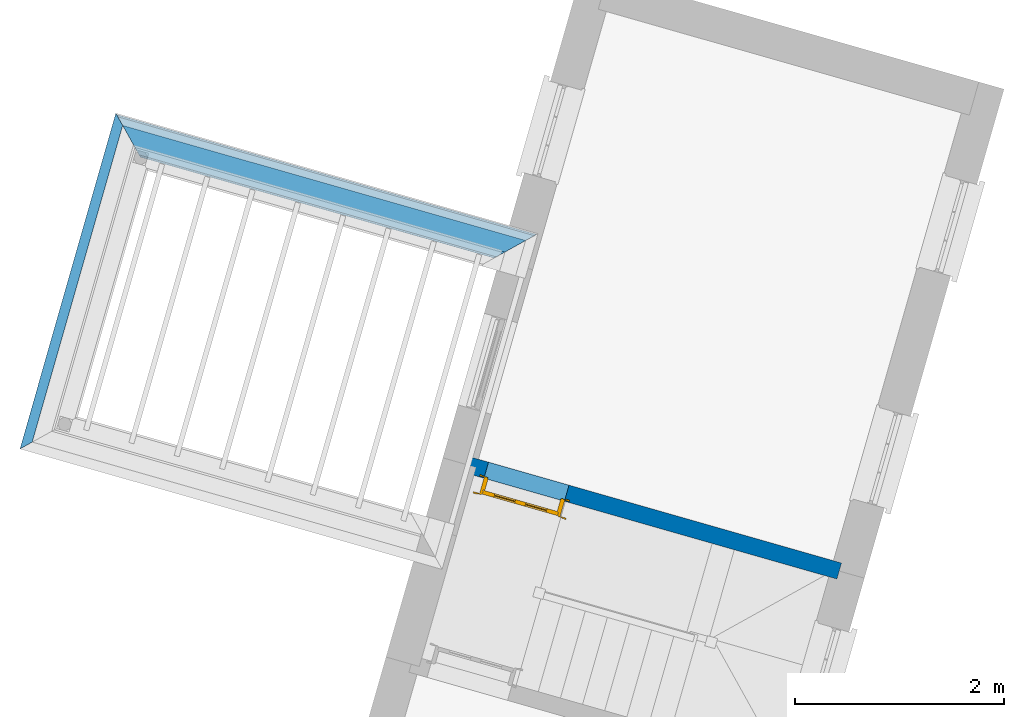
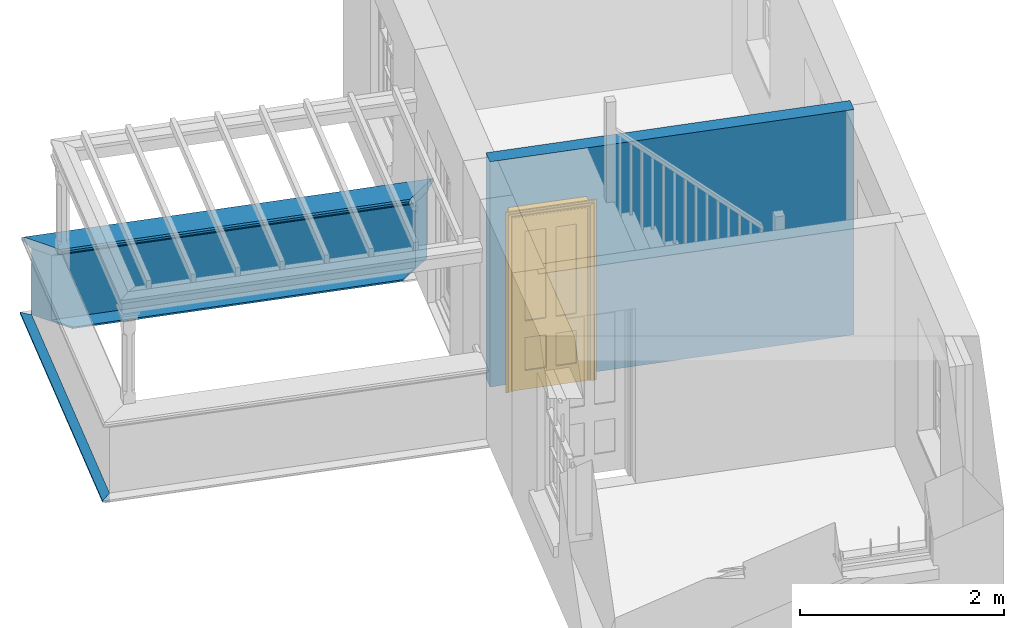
# One storey, part 3 of 6: 4 walls, 1 door, 1 opening.
"""IFC4 building model written with IfcOpenShell, lengths in metres."""

from ifc_helpers import new_model, si_unit, frame, origin, origin_with_axes, place, context, subcontext, project, spatial, polyline, outline, extrude, clip, halfspace, faceted_brep, source, transform, mapped, material, layer, layer_set, layer_usage, material_profile, profile_set, profile_usage, type_object, type_shapes, element, fill, save


model = new_model("IFC4")

# Units and contexts
model_context = context("Model", 3, world=origin_with_axes())
body_context = subcontext(model_context, "Body", "Model", "MODEL_VIEW")
ifc_project = project(units=[si_unit("PLANEANGLEUNIT", "RADIAN"), si_unit("MASSUNIT", "GRAM", prefix="KILO"), si_unit("FORCEUNIT", "NEWTON", prefix="KILO"), si_unit("LENGTHUNIT", "METRE"), si_unit("AREAUNIT", "SQUARE_METRE"), si_unit("VOLUMEUNIT", "CUBIC_METRE")], contexts=[model_context, model_context])

# Sites, building, storey
site_1_placement = place(None, origin_with_axes())
site_1 = spatial("IfcSite", under=ifc_project, at=site_1_placement, Name="Tamar")
site_2_placement = place(site_1_placement, origin_with_axes())
site_2 = spatial("IfcSite", under=site_1, at=site_2_placement, Name="Site plot-20", CompositionType="ELEMENT")
building_placement = place(None, origin_with_axes())
building = spatial("IfcBuilding", under=site_2, at=building_placement, Name="Building plot-20", CompositionType="ELEMENT")
storey_placement = place(None, frame((0.0, 0.0, 29.15), z_axis=(0.0, 0.0, 1.0), x_axis=(1.0, 0.0, 0.0)))
storey = spatial("IfcBuildingStorey", under=building, at=storey_placement, Name="plot-20 1", CompositionType="ELEMENT", Elevation=29.15)

# Wall, opening, door
ifc_material = material(Name="Masonry")
ifc_layer = layer(ifc_material, 0.16, ventilated=False)
ifc_layer_set = layer_set([ifc_layer], Name="interior_0.08_0.08")
ifc_layer_usage = layer_usage(ifc_layer_set, "AXIS2", "POSITIVE", -0.08)
wall_type_1 = type_object("IfcWallType", Name="interior_0.08_0.08", PredefinedType="SOLIDWALL", material=ifc_layer_set)
wall_1_placement = place(storey_placement, frame((281.132347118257, 288.440429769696, 0.0), z_axis=(0.0, 0.0, 1.0), x_axis=(-0.961567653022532, 0.274568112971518, 0.0)))
wall_1 = element("IfcWall", 1, at=wall_1_placement, inside=storey, type_object=wall_type_1, material=ifc_layer_usage, Name="interior", context=body_context, shape_type="SweptSolid", body=[
    extrude(outline(polyline([(1.74487227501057e-14, 0.079999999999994), (-1.74566891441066e-14, -0.079999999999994), (3.68676876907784, -0.0799999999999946), (3.68676876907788, 0.0799999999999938), (1.74487227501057e-14, 0.079999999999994)])), origin_with_axes(), (0.0, 0.0, 1.0), 2.7),
])
opening_placement = place(wall_1_placement, frame((2.70676876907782, 0.0, 0.0199999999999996)))
opening = element("IfcOpeningElement", 2, at=opening_placement, cuts=wall_1, Name="My Opening", ObjectType="Opening", context=body_context, shape_type="SweptSolid", body=[
    extrude(outline(polyline([(0.0, -0.0999999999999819), (0.800000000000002, -0.099999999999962), (0.800000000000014, 1.09999999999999), (1.15463194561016e-14, 1.09999999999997), (0.0, -0.0999999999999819)])), origin_with_axes(), (0.0, 0.0, 1.0), 2.1),
])
door_type = type_object("IfcDoorType", Name="door_inside", OperationType="SINGLE_SWING_LEFT", PredefinedType="NOTDEFINED")
shared_shape = source(origin(), body_context, "Body", "Brep", [
    faceted_brep([(0.773, 0.33, 1.895), (0.66, 0.33, 1.895), (0.66, 0.33, 2.073), (0.773, 0.33, 2.073), (0.773, 0.33, 0.82), (0.66, 0.33, 0.82), (0.45, 0.33, 1.895), (0.45, 0.33, 2.073), (0.773, 0.33, 0.62), (0.66, 0.33, 0.62), (0.66, 0.315, 0.82), (0.66, 0.315, 1.895), (0.45, 0.315, 1.895), (0.35, 0.33, 1.895), (0.35, 0.33, 2.073), (0.773, 0.33, 0.225), (0.66, 0.33, 0.225), (0.45, 0.33, 0.62), (0.45, 0.33, 0.82), (0.45, 0.315, 0.82), (0.35, 0.33, 0.82), (0.14, 0.33, 2.073), (0.14, 0.33, 1.895), (0.773, 0.33, 0.0), (0.66, 0.33, 0.0), (0.66, 0.315, 0.225), (0.66, 0.315, 0.62), (0.45, 0.315, 0.62), (0.35, 0.33, 0.62), (0.35, 0.315, 0.82), (0.35, 0.315, 1.895), (0.14, 0.315, 1.895), (0.027, 0.33, 2.073), (0.027, 0.33, 1.895), (0.773, 0.292, 0.0), (0.66, 0.292, 0.0), (0.45, 0.33, 0.0), (0.45, 0.33, 0.225), (0.45, 0.315, 0.225), (0.35, 0.33, 0.225), (0.14, 0.33, 0.82), (0.14, 0.33, 0.62), (0.14, 0.315, 0.82), (0.027, 0.33, 0.82), (0.773, 0.292, 0.225), (0.66, 0.292, 0.225), (0.45, 0.292, 0.0), (0.35, 0.33, 0.0), (0.35, 0.315, 0.225), (0.35, 0.315, 0.62), (0.14, 0.315, 0.62), (0.027, 0.33, 0.62), (0.773, 0.292, 0.62), (0.66, 0.292, 0.62), (0.45, 0.292, 0.225), (0.35, 0.292, 0.0), (0.14, 0.33, 0.225), (0.14, 0.33, 0.0), (0.14, 0.315, 0.225), (0.027, 0.33, 0.225), (0.773, 0.292, 0.82), (0.66, 0.292, 0.82), (0.66, 0.307, 0.62), (0.66, 0.307, 0.225), (0.45, 0.307, 0.225), (0.35, 0.292, 0.225), (0.14, 0.292, 0.0), (0.027, 0.33, 0.0), (0.773, 0.292, 1.895), (0.66, 0.292, 1.895), (0.45, 0.292, 0.62), (0.45, 0.292, 0.82), (0.45, 0.307, 0.62), (0.35, 0.292, 0.62), (0.14, 0.292, 0.225), (0.027, 0.292, 0.0), (0.773, 0.292, 2.073), (0.66, 0.292, 2.073), (0.66, 0.307, 1.895), (0.66, 0.307, 0.82), (0.45, 0.307, 0.82), (0.35, 0.292, 0.82), (0.35, 0.307, 0.62), (0.35, 0.307, 0.225), (0.14, 0.307, 0.225), (0.027, 0.292, 0.225), (0.45, 0.292, 1.895), (0.45, 0.292, 2.073), (0.45, 0.307, 1.895), (0.35, 0.292, 1.895), (0.14, 0.292, 0.82), (0.14, 0.292, 0.62), (0.14, 0.307, 0.62), (0.027, 0.292, 0.62), (0.35, 0.292, 2.073), (0.35, 0.307, 1.895), (0.35, 0.307, 0.82), (0.14, 0.307, 0.82), (0.027, 0.292, 0.82), (0.14, 0.292, 2.073), (0.14, 0.292, 1.895), (0.14, 0.307, 1.895), (0.027, 0.292, 1.895), (0.027, 0.292, 2.073), (0.02, 0.335, 0.0), (0.005, 0.34, 0.0), (0.005, 0.34, 2.095), (0.02, 0.335, 2.08), (0.02, 0.33, 0.0), (0.0, 0.335, 0.0), (0.0, 0.335, 2.1), (0.795, 0.34, 2.095), (0.78, 0.335, 2.08), (0.02, 0.33, 2.08), (0.0, 0.33, 0.0), (-0.032, 0.345, 0.0), (-0.032, 0.345, 2.132), (0.8, 0.335, 2.1), (0.795, 0.34, 0.0), (0.78, 0.335, 0.0), (0.78, 0.33, 2.08), (0.04, 0.29, 0.0), (0.025, 0.29, 0.0), (0.025, 0.29, 2.075), (0.04, 0.29, 2.06), (-0.04, 0.34, 0.0), (-0.04, 0.34, 2.14), (0.832, 0.345, 2.132), (0.8, 0.335, 0.0), (0.78, 0.33, 0.0), (0.8, 0.33, 0.0), (0.86, 0.33, 0.0), (0.86, 0.33, 2.16), (0.8, 0.33, 2.1), (-0.06, 0.33, 2.16), (0.0, 0.33, 2.1), (-0.06, 0.33, 0.0), (-0.04, 0.345, 0.0), (-0.04, 0.345, 2.14), (0.84, 0.34, 2.14), (0.832, 0.345, 0.0), (0.84, 0.34, 0.0), (0.86, 0.345, 0.0), (0.86, 0.345, 2.16), (-0.06, 0.345, 2.16), (-0.06, 0.345, 0.0), (0.84, 0.345, 0.0), (0.84, 0.345, 2.14), (-0.025, 0.155, 0.0), (-0.025, 0.16, 0.0), (-0.025, 0.16, 2.125), (-0.025, 0.155, 2.125), (-0.017, 0.155, 0.0), (-0.017, 0.155, 2.117), (0.825, 0.16, 2.125), (0.825, 0.155, 2.125), (0.825, 0.155, 0.0), (0.845, 0.155, 0.0), (-0.045, 0.155, 2.145), (-0.045, 0.155, 0.0), (0.845, 0.155, 2.145), (0.015, 0.165, 0.0), (0.015, 0.165, 2.085), (0.817, 0.155, 2.117), (0.825, 0.16, 0.0), (0.845, 0.17, 0.0), (0.845, 0.17, 2.145), (-0.045, 0.17, 2.145), (-0.045, 0.17, 0.0), (0.02, 0.16, 0.0), (0.02, 0.16, 2.08), (0.785, 0.165, 2.085), (0.817, 0.155, 0.0), (0.8, 0.17, 0.0), (0.8, 0.17, 2.1), (0.0, 0.17, 2.1), (0.0, 0.17, 0.0), (0.035, 0.165, 0.0), (0.035, 0.165, 2.065), (0.78, 0.16, 2.08), (0.785, 0.165, 0.0), (0.775, 0.29, 2.075), (0.76, 0.29, 2.06), (0.035, 0.17, 2.065), (0.035, 0.17, 0.0), (0.765, 0.165, 2.065), (0.78, 0.16, 0.0), (0.765, 0.17, 0.0), (0.765, 0.17, 2.065), (0.765, 0.165, 0.0), (0.04, 0.17, 2.06), (0.04, 0.17, 0.0), (0.76, 0.17, 2.06), (0.76, 0.17, 0.0), (0.76, 0.29, 0.0), (0.775, 0.29, 0.0), (0.025, 0.33, 0.0), (0.025, 0.33, 2.075), (0.775, 0.33, 0.0), (0.775, 0.33, 2.075)], [[[0, 1, 2, 3]], [[1, 0, 4, 5]], [[1, 6, 7, 2]], [[8, 9, 5, 4]], [[1, 5, 10, 11]], [[6, 1, 11, 12]], [[6, 13, 14, 7]], [[15, 16, 9, 8]], [[9, 17, 18, 5]], [[5, 18, 19, 10]], [[10, 19, 12, 11]], [[18, 6, 12, 19]], [[18, 20, 13, 6]], [[21, 14, 13, 22]], [[23, 24, 16, 15]], [[9, 16, 25, 26]], [[17, 9, 26, 27]], [[17, 28, 20, 18]], [[13, 20, 29, 30]], [[22, 13, 30, 31]], [[32, 21, 22, 33]], [[34, 35, 24, 23]], [[24, 36, 37, 16]], [[16, 37, 38, 25]], [[25, 38, 27, 26]], [[37, 17, 27, 38]], [[37, 39, 28, 17]], [[40, 20, 28, 41]], [[20, 40, 42, 29]], [[31, 30, 29, 42]], [[40, 22, 31, 42]], [[33, 22, 40, 43]], [[35, 34, 44, 45]], [[35, 46, 36, 24]], [[36, 47, 39, 37]], [[28, 39, 48, 49]], [[41, 28, 49, 50]], [[43, 40, 41, 51]], [[45, 44, 52, 53]], [[46, 35, 45, 54]], [[46, 55, 47, 36]], [[56, 39, 47, 57]], [[39, 56, 58, 48]], [[50, 49, 48, 58]], [[56, 41, 50, 58]], [[51, 41, 56, 59]], [[53, 52, 60, 61]], [[45, 53, 62, 63]], [[54, 45, 63, 64]], [[55, 46, 54, 65]], [[55, 66, 57, 47]], [[59, 56, 57, 67]], [[61, 60, 68, 69]], [[70, 53, 61, 71]], [[53, 70, 72, 62]], [[72, 64, 63, 62]], [[70, 54, 64, 72]], [[65, 54, 70, 73]], [[65, 74, 66, 55]], [[67, 57, 66, 75]], [[69, 68, 76, 77]], [[61, 69, 78, 79]], [[71, 61, 79, 80]], [[73, 70, 71, 81]], [[65, 73, 82, 83]], [[74, 65, 83, 84]], [[74, 85, 75, 66]], [[86, 69, 77, 87]], [[69, 86, 88, 78]], [[88, 80, 79, 78]], [[86, 71, 80, 88]], [[81, 71, 86, 89]], [[73, 81, 90, 91]], [[73, 91, 92, 82]], [[83, 82, 92, 84]], [[91, 74, 84, 92]], [[91, 93, 85, 74]], [[89, 86, 87, 94]], [[81, 89, 95, 96]], [[90, 81, 96, 97]], [[90, 98, 93, 91]], [[94, 99, 100, 89]], [[89, 100, 101, 95]], [[101, 97, 96, 95]], [[100, 90, 97, 101]], [[100, 102, 98, 90]], [[99, 103, 102, 100]], [[32, 103, 99, 21]], [[102, 103, 32, 33]], [[98, 102, 33, 43]], [[21, 99, 94, 14]], [[94, 87, 7, 14]], [[7, 87, 77, 2]], [[76, 3, 2, 77]], [[43, 51, 93, 98]], [[51, 59, 85, 93]], [[67, 75, 85, 59]], [[34, 23, 15, 44]], [[44, 15, 8, 52]], [[52, 8, 4, 60]], [[0, 68, 60, 4]], [[0, 3, 76, 68]], [[104, 105, 106, 107]], [[104, 108, 109, 105]], [[105, 109, 110, 106]], [[107, 106, 111, 112]], [[107, 113, 108, 104]], [[114, 109, 108]], [[109, 115, 116, 110]], [[106, 110, 117, 111]], [[112, 111, 118, 119]], [[113, 107, 112, 120]], [[121, 122, 123, 124]], [[115, 109, 114, 125]], [[115, 125, 126, 116]], [[110, 116, 127, 117]], [[111, 117, 128, 118]], [[118, 128, 129, 119]], [[120, 112, 119, 129]], [[130, 129, 128]], [[130, 131, 132, 133]], [[133, 132, 134, 135]], [[135, 134, 136, 114]], [[136, 125, 114]], [[125, 137, 138, 126]], [[116, 126, 139, 127]], [[117, 127, 140, 128]], [[141, 130, 128, 140]], [[131, 130, 141]], [[131, 142, 143, 132]], [[132, 143, 144, 134]], [[134, 144, 145, 136]], [[137, 125, 136, 145]], [[143, 142, 146]], [[143, 146, 147]], [[137, 145, 144]], [[143, 147, 138]], [[138, 137, 144]], [[143, 138, 144]], [[126, 138, 147, 139]], [[127, 139, 141, 140]], [[142, 131, 141, 146]], [[139, 147, 146, 141]], [[148, 149, 150, 151]], [[149, 152, 153, 150]], [[151, 150, 154, 155]], [[155, 156, 157]], [[158, 159, 148]], [[158, 148, 151]], [[155, 157, 160]], [[158, 151, 155]], [[155, 160, 158]], [[152, 161, 162, 153]], [[150, 153, 163, 154]], [[155, 154, 164, 156]], [[156, 164, 165, 157]], [[157, 165, 166, 160]], [[160, 166, 167, 158]], [[158, 167, 168, 159]], [[161, 169, 170, 162]], [[153, 162, 171, 163]], [[154, 163, 172, 164]], [[165, 164, 173]], [[165, 173, 174, 166]], [[166, 174, 175, 167]], [[167, 175, 176, 168]], [[169, 177, 178, 170]], [[162, 170, 179, 171]], [[163, 171, 180, 172]], [[172, 180, 173, 164]], [[124, 123, 181, 182]], [[183, 178, 177, 184]], [[170, 178, 185, 179]], [[171, 179, 186, 180]], [[187, 173, 180]], [[185, 188, 187, 189]], [[188, 185, 178, 183]], [[179, 185, 189, 186]], [[189, 187, 180, 186]], [[190, 183, 184, 191]], [[192, 188, 183, 190]], [[191, 184, 122, 121]], [[124, 190, 191, 121]], [[193, 187, 188, 192]], [[182, 192, 190, 124]], [[184, 176, 122]], [[194, 195, 187, 193]], [[192, 182, 194, 193]], [[161, 176, 184]], [[114, 108, 122, 176]], [[173, 187, 195]], [[152, 149, 176, 161]], [[169, 161, 184, 177]], [[196, 122, 108]], [[176, 175, 135, 114]], [[173, 195, 129, 130]], [[176, 149, 168]], [[123, 122, 196, 197]], [[196, 108, 113, 197]], [[175, 174, 133, 135]], [[198, 129, 195]], [[133, 174, 173, 130]], [[159, 168, 149, 148]], [[181, 123, 197, 199]], [[197, 113, 120, 199]], [[199, 120, 129, 198]], [[195, 181, 199, 198]], [[195, 194, 182, 181]]]),
])
type_shapes(door_type, [shared_shape])
door_placement = place(storey_placement, frame((278.557062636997, 289.279778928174, 0.0199999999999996), z_axis=(0.0, 0.0, 1.0), x_axis=(-0.769254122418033, 0.219654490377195, 0.0)))
door = element("IfcDoor", 3, at=door_placement, inside=storey, type_object=door_type, Name="bedroom inside door", OverallHeight=2.1, OverallWidth=0.8, context=body_context, shape_type="MappedRepresentation", body=[
    mapped(shared_shape, transform((0.0, 0.0, 0.0), scale=1.0)),
])
fill(opening, door)

# Walls
ifc_material_profile_1 = material_profile(None, outline(polyline([(0.25, 0.0), (0.25, 0.795), (0.09, 0.795), (0.09, 0.02), (-0.08, 0.02), (-0.08, 0.0), (0.25, 0.0)])))
ifc_profile_set_1 = profile_set([ifc_material_profile_1])
ifc_profile_usage_1 = profile_usage(ifc_profile_set_1)
wall_type_2 = type_object("IfcWallType", Name="parapet_0", PredefinedType="PARAPET", material=ifc_profile_set_1)
wall_2_placement = place(storey_placement, frame((273.498102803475, 292.662178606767, 0.0), z_axis=(0.961567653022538, -0.274568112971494, 0.0), x_axis=(0.274568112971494, 0.961567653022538, 0.0)))
element("IfcWall", 4, at=wall_2_placement, inside=storey, type_object=wall_type_2, material=ifc_profile_usage_1, Name="parapet_0", context=body_context, shape_type="Clipping", body=[
    clip(clip(extrude(outline(polyline([(0.25, 0.0), (0.25, 0.795), (0.09, 0.795), (0.09, 0.02), (-0.08, 0.02), (-0.08, 0.0), (0.25, 0.0)])), origin_with_axes(), (0.0, 0.0, 1.0), 5.50323123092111), halfspace(frame((0.0, 0.0, 4.50323123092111), z_axis=(0.707106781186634, 0.0, -0.707106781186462), x_axis=(0.0, 1.0, 0.0)), True)), halfspace(frame((0.0, 0.0, 1.0), z_axis=(-0.707106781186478, 0.0, -0.707106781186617), x_axis=(0.0, 1.0, 0.0)), False)),
])
ifc_material_profile_2 = material_profile(None, outline(polyline([(0.265, 0.795), (0.268, 0.807), (0.274, 0.816), (0.283, 0.822), (0.295, 0.825), (0.295, 0.84), (0.305, 0.84), (0.317, 0.842), (0.326, 0.849), (0.333, 0.858), (0.335, 0.87), (0.333, 0.882), (0.326, 0.891), (0.317, 0.898), (0.305, 0.9), (0.035, 0.9), (0.023, 0.898), (0.014, 0.891), (0.007, 0.882), (0.005, 0.87), (0.007, 0.858), (0.014, 0.849), (0.023, 0.842), (0.035, 0.84), (0.045, 0.84), (0.045, 0.825), (0.057, 0.822), (0.066, 0.816), (0.072, 0.807), (0.075, 0.795), (0.265, 0.795)])))
ifc_profile_set_2 = profile_set([ifc_material_profile_2])
ifc_profile_usage_2 = profile_usage(ifc_profile_set_2)
wall_type_3 = type_object("IfcWallType", Name="parapet_1", PredefinedType="PARAPET", material=ifc_profile_set_2)
wall_3_placement = place(storey_placement, frame((273.498102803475, 292.662178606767, 0.0), z_axis=(0.961567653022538, -0.274568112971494, 0.0), x_axis=(0.274568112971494, 0.961567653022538, 0.0)))
element("IfcWall", 5, at=wall_3_placement, inside=storey, type_object=wall_type_3, material=ifc_profile_usage_2, Name="parapet_1", context=body_context, shape_type="Clipping", body=[
    clip(clip(extrude(outline(polyline([(0.265, 0.795), (0.268, 0.807), (0.274, 0.816), (0.283, 0.822), (0.295, 0.825), (0.295, 0.84), (0.305, 0.84), (0.317, 0.842), (0.326, 0.849), (0.333, 0.858), (0.335, 0.87), (0.333, 0.882), (0.326, 0.891), (0.317, 0.898), (0.305, 0.9), (0.035, 0.9), (0.023, 0.898), (0.014, 0.891), (0.007, 0.882), (0.005, 0.87), (0.007, 0.858), (0.014, 0.849), (0.023, 0.842), (0.035, 0.84), (0.045, 0.84), (0.045, 0.825), (0.057, 0.822), (0.066, 0.816), (0.072, 0.807), (0.075, 0.795), (0.265, 0.795)])), origin_with_axes(), (0.0, 0.0, 1.0), 5.50323123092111), halfspace(frame((0.0, 0.0, 4.50323123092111), z_axis=(0.707106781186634, 0.0, -0.707106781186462), x_axis=(0.0, 1.0, 0.0)), True)), halfspace(frame((0.0, 0.0, 1.0), z_axis=(-0.707106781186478, 0.0, -0.707106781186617), x_axis=(0.0, 1.0, 0.0)), False)),
])
ifc_material_profile_3 = material_profile(None, outline(polyline([(0.25, -0.1), (0.265, -0.1), (0.265, -0.085), (0.278, -0.084), (0.289, -0.081), (0.301, -0.074), (0.309, -0.065), (0.315, -0.055), (0.324, -0.044), (0.334, -0.038), (0.345, -0.035), (0.345, -0.015), (0.25, 0.0), (0.25, -0.1)])))
ifc_profile_set_3 = profile_set([ifc_material_profile_3])
ifc_profile_usage_3 = profile_usage(ifc_profile_set_3)
wall_type_4 = type_object("IfcWallType", Name="parapet_2", PredefinedType="PARAPET", material=ifc_profile_set_3)
wall_4_placement = place(storey_placement, frame((273.458765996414, 288.88233327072, 0.0), z_axis=(0.274568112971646, 0.961567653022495, 0.0), x_axis=(-0.961567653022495, 0.274568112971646, 0.0)))
element("IfcWall", 6, at=wall_4_placement, inside=storey, type_object=wall_type_4, material=ifc_profile_usage_3, Name="parapet_2", context=body_context, shape_type="Clipping", body=[
    clip(clip(extrude(outline(polyline([(0.25, -0.1), (0.265, -0.1), (0.265, -0.085), (0.278, -0.084), (0.289, -0.081), (0.301, -0.074), (0.309, -0.065), (0.315, -0.055), (0.324, -0.044), (0.334, -0.038), (0.345, -0.035), (0.345, -0.015), (0.25, 0.0), (0.25, -0.1)])), origin_with_axes(), (0.0, 0.0, 1.0), 4.64537764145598), halfspace(frame((0.0, 0.0, 3.64537764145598), z_axis=(0.707106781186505, 0.0, -0.70710678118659), x_axis=(0.0, 1.0, 0.0)), True)), halfspace(frame((0.0, 0.0, 1.0), z_axis=(-0.707106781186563, 0.0, -0.707106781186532), x_axis=(0.0, 1.0, 0.0)), False)),
])

save(model, "model.ifc")
